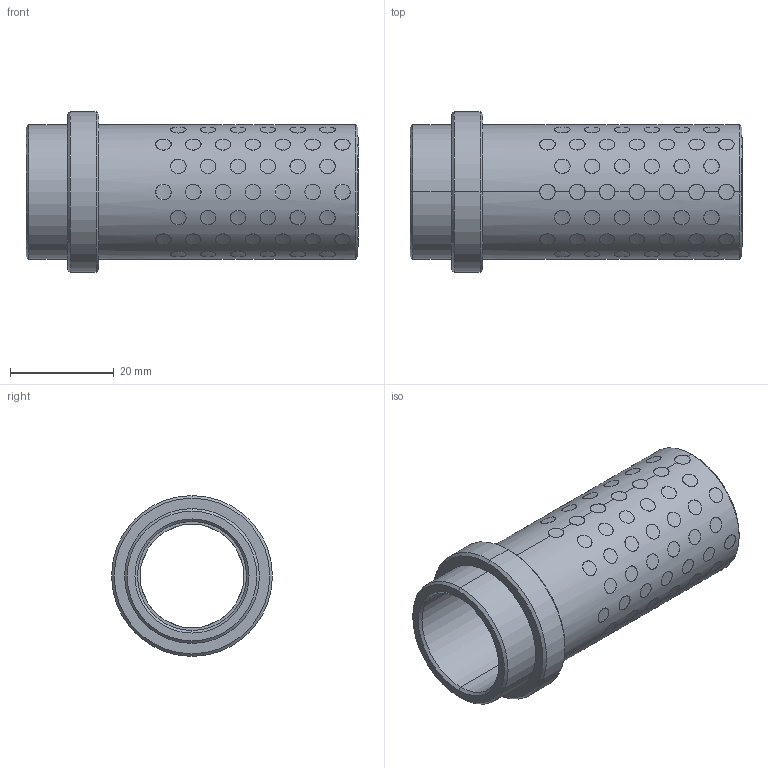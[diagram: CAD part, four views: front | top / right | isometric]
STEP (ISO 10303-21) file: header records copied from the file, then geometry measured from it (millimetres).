
FILE_DESCRIPTION((''),'2;1');
FILE_NAME('G31220056','2017-12-30T',('MANU'),(''),'PRO/ENGINEER BY PARAMETRIC TECHNOLOGY CORPORATION, 2012130','PRO/ENGINEER BY PARAMETRIC TECHNOLOGY CORPORATION, 2012130','');
FILE_SCHEMA(('CONFIG_CONTROL_DESIGN'));
Length unit declared in the file: millimetre
Products named in the file (1): G31220056
Bounding box: 64 x 31 x 31 mm (x, y, z)
Volume: 14374 mm3; surface area: 15958.5 mm2
Topology: 105 solids, 105 shells, 651 faces, 1386 edges, 920 vertices
Faces by surface type: cylinder 634, cone 12, plane 5
Entity records: 30010 total; most frequent: CARTESIAN_POINT 17337, ORIENTED_EDGE 2772, DIRECTION 1832, EDGE_CURVE 1386, VERTEX_POINT 920, B_SPLINE_CURVE_WITH_KNOTS 888, EDGE_LOOP 836, AXIS2_PLACEMENT_3D 683
